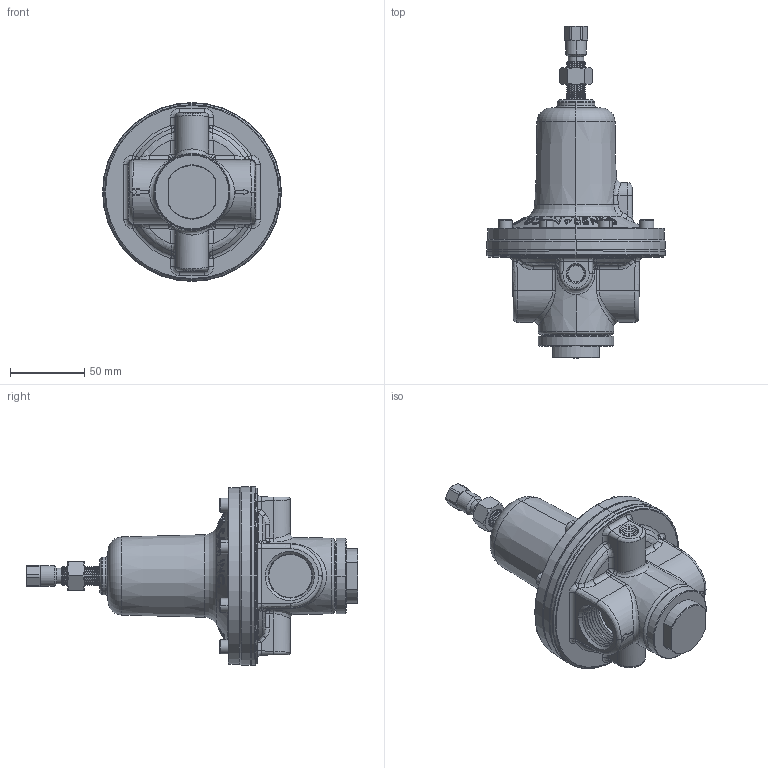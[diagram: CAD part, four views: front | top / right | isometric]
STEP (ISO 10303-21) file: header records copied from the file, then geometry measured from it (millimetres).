
FILE_DESCRIPTION (( 'STEP AP203' ), '1' );
FILE_NAME ('4GDR-1000B.STEP', '2013-03-14T12:18:38', ( '' ), ( '' ), 'SwSTEP 2.0', 'SolidWorks 2011', '' );
FILE_SCHEMA (( 'CONFIG_CONTROL_DESIGN' ));
Products named in the file (2): 4GDR-1000B; Part5^4GDR-1000B
Assembly tree (1 placements, depth 2):
  4GDR-1000B
    Part5^4GDR-1000B
Bounding box: 120.14 x 223.04 x 120.14 mm (x, y, z)
Volume: 638881.5 mm3; surface area: 69844.2 mm2
Topology: 1 solids, 9 shells, 1168 faces, 2687 edges, 1545 vertices
Faces by surface type: cone 427, plane 341, cylinder 172, bspline 158, torus 43, sphere 27
Entity records: 41629 total; most frequent: CARTESIAN_POINT 16950, ORIENTED_EDGE 5308, DIRECTION 4745, EDGE_CURVE 2654, AXIS2_PLACEMENT_3D 1848, VERTEX_POINT 1545, EDGE_LOOP 1225, ADVANCED_FACE 1168
